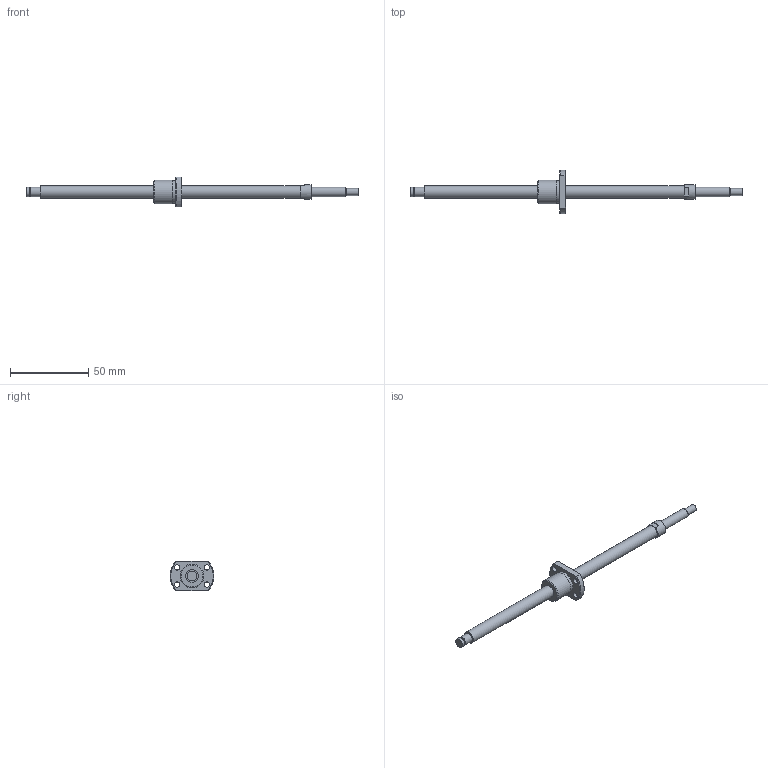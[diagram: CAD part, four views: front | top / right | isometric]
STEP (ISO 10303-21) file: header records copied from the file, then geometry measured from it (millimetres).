
FILE_DESCRIPTION(/* description */ ('STEP AP214'),/* implementation_level */ '2;1');
FILE_NAME(/* name */ 'SRT0802K-162R212C7B0X(B72.5Processing0X)',/* time_stamp */ '2026-08-04T20:00:50+02:00',/* author */ ('License CC BY-ND 4.0'),/* organization */ ('CADENAS'),/* preprocessor_version */ 'ST-DEVELOPER v20',/* originating_system */ 'PARTsolutions',/* authorisation */ ' ');
FILE_SCHEMA (('AUTOMOTIVE_DESIGN {1 0 10303 214 3 1 1}'));
Length unit declared in the file: millimetre
Products named in the file (3): SRT0802K-162R212C7B0X(B72.5Processing0X); 8BProcessing212; SR0802K_nut
Assembly tree (2 placements, depth 2):
  SRT0802K-162R212C7B0X(B72.5Processing0X)
    8BProcessing212
    SR0802K_nut
Bounding box: 212 x 27.9 x 19 mm (x, y, z)
Volume: 13169.1 mm3; surface area: 7611.4 mm2
Topology: 2 solids, 2 shells, 41 faces, 85 edges, 55 vertices
Faces by surface type: plane 19, cylinder 16, cone 6
Full cylindrical faces by diameter (mm): 3.4 x4, 4.5 x1, 5.7 x1, 6 x3, 8 x2, 9.5 x1, 14.6 x1, 15 x1
Entity records: 1115 total; most frequent: DIRECTION 190, CARTESIAN_POINT 190, ORIENTED_EDGE 136, AXIS2_PLACEMENT_3D 86, EDGE_LOOP 74, FACE_BOUND 74, EDGE_CURVE 68, VERTEX_POINT 54
